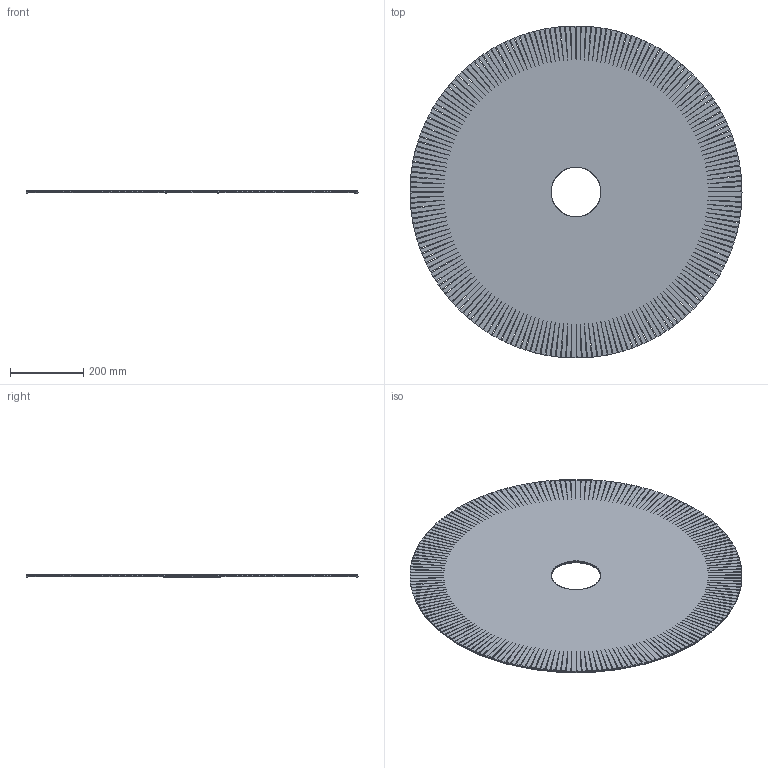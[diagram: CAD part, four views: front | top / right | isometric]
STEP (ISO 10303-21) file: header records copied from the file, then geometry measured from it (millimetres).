
FILE_DESCRIPTION (( 'STEP AP214' ), '1' );
FILE_NAME ('WIND_900.STEP', '2026-08-27T13:18:59', ( '' ), ( '' ), 'SwSTEP 2.0', 'SolidWorks 2023', '' );
FILE_SCHEMA (( 'AUTOMOTIVE_DESIGN' ));
Length unit declared in the file: millimetre
Products named in the file (1): WIND_900
Bounding box: 905 x 905 x 6.99 mm (x, y, z)
Volume: 1268365.7 mm3; surface area: 1334517.2 mm2
Topology: 3 solids, 3 shells, 1010 faces, 3016 edges, 2008 vertices
Faces by surface type: plane 1002, torus 8
Entity records: 33285 total; most frequent: CARTESIAN_POINT 6035, ORIENTED_EDGE 6032, DIRECTION 5054, EDGE_CURVE 3016, LINE 3000, VECTOR 3000, VERTEX_POINT 2008, AXIS2_PLACEMENT_3D 1027
